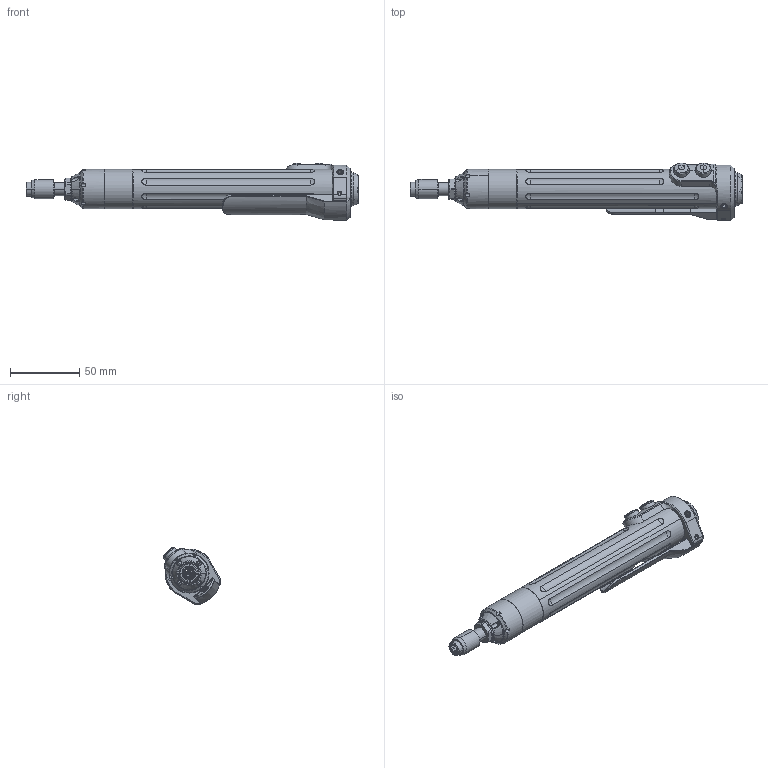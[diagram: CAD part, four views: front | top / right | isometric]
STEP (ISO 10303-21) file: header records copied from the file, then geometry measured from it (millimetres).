
FILE_DESCRIPTION (( 'STEP AP203' ), '1' );
FILE_NAME ('ASG-SD2500-35PL.STEP', '2011-07-21T13:56:55', ( '' ), ( '' ), 'SwSTEP 2.0', 'SolidWorks 2011', '' );
FILE_SCHEMA (( 'CONFIG_CONTROL_DESIGN' ));
Length unit declared in the file: inch
Products named in the file (1): ASG-SD2500-35PL
Bounding box: 240.39 x 41.89 x 41.87 mm (x, y, z)
Surface area: 35960.3 mm2 (no closed solid volume)
Topology: 0 solids, 27 shells, 458 faces, 1320 edges, 869 vertices
Faces by surface type: cylinder 163, plane 89, torus 78, cone 58, bspline 58, sphere 12
Entity records: 24173 total; most frequent: CARTESIAN_POINT 12601, DIRECTION 2380, ORIENTED_EDGE 2338, EDGE_CURVE 1302, AXIS2_PLACEMENT_3D 1004, VERTEX_POINT 863, CIRCLE 603, EDGE_LOOP 523
